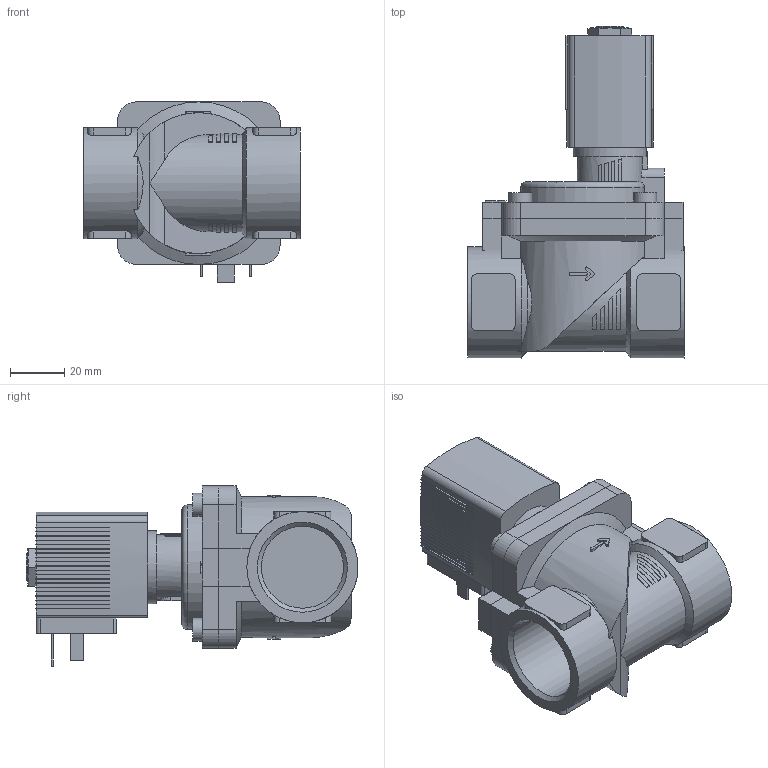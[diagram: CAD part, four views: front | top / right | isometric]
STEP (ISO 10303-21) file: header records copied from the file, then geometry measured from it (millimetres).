
FILE_DESCRIPTION(/* description */ ('STEP AP214'),/* implementation_level */ '2;1');
FILE_NAME(/* name */ '6281-241485-2_2-Way_Solenoid_Valve__Servo-assisted__General_Purpose',/* time_stamp */ '2024-05-20T13:38:26+02:00',/* author */ ('License CC BY-ND 4.0'),/* organization */ ('CADENAS'),/* preprocessor_version */ 'ST-DEVELOPER v19.3',/* originating_system */ 'PARTsolutions',/* authorisation */ ' ');
FILE_SCHEMA (('AUTOMOTIVE_DESIGN {1 0 10303 214 3 1 1}'));
Length unit declared in the file: millimetre
Products named in the file (4): 6281-241485-2/2-Way Solenoid Valve, Servo-assisted, General Purpose; 5281ev200MS2/2-Wege-Magnetventil mit Servomembran-Deckel   ; 6213-20G1MS-Gehaeuse-; AC10ex-5OO-Plan-Coil
Assembly tree (3 placements, depth 2):
  6281-241485-2/2-Way Solenoid Valve, Servo-assisted, General Purpose
    5281ev200MS2/2-Wege-Magnetventil mit Servomembran-Deckel   
    6213-20G1MS-Gehaeuse-
    AC10ex-5OO-Plan-Coil
Bounding box: 80 x 122.5 x 66.5 mm (x, y, z)
Volume: 212857.3 mm3; surface area: 46973 mm2
Topology: 3 solids, 3 shells, 530 faces, 1465 edges, 971 vertices
Faces by surface type: plane 428, cylinder 86, cone 15, torus 1
Full cylindrical faces by diameter (mm): 2.013 x1, 8.5 x4, 9.74 x1, 27 x1, 30.291 x2, 41 x2
Entity records: 19460 total; most frequent: CARTESIAN_POINT 3207, ORIENTED_EDGE 2884, DIRECTION 2758, EDGE_CURVE 1442, LINE 1058, VECTOR 1058, VERTEX_POINT 963, AXIS2_PLACEMENT_3D 850
